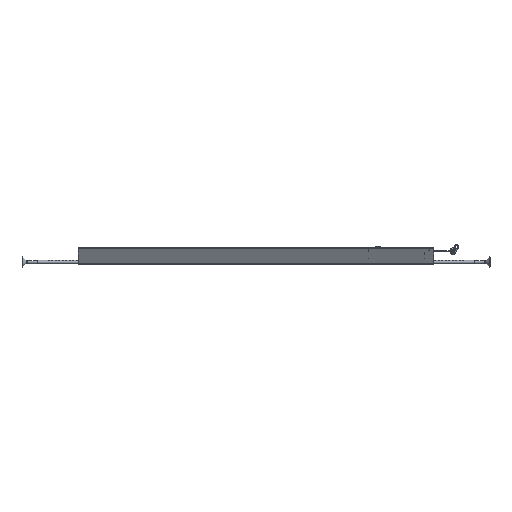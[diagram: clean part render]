
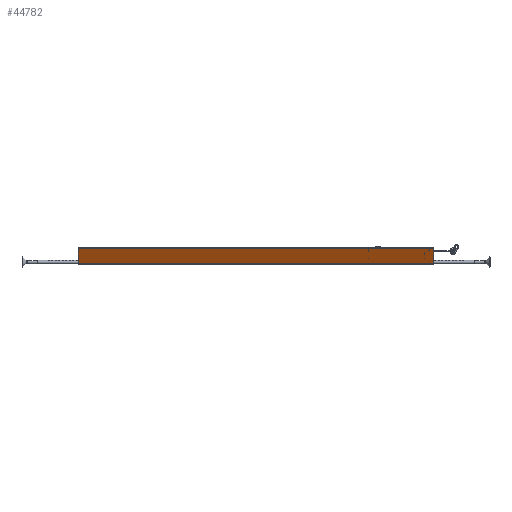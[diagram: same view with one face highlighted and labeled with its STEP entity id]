
A CAD part, left-side view. The second image highlights one B-rep face of the part: STEP entity #44782.
In plain terms, the highlighted planar face has unit normal (-0.862, 0, -0.507).
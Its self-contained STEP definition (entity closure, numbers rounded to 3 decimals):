
#260 = CARTESIAN_POINT ( 'NONE',  ( -11.632, 1015., -6.852 ) ) ;
#315 = VECTOR ( 'NONE', #31514, 1000. ) ;
#1368 = VERTEX_POINT ( 'NONE', #31929 ) ;
#2068 = VERTEX_POINT ( 'NONE', #44855 ) ;
#3197 = LINE ( 'NONE', #17385, #315 ) ;
#4309 = CARTESIAN_POINT ( 'NONE',  ( -63.956, 1015., 81.977 ) ) ;
#4530 = LINE ( 'NONE', #4309, #25526 ) ;
#5333 = EDGE_CURVE ( 'NONE', #1368, #42157, #42779, .T. ) ;
#6523 = CARTESIAN_POINT ( 'NONE',  ( -11.632, 1015., -6.852 ) ) ;
#6597 = ORIENTED_EDGE ( 'NONE', *, *, #19477, .F. ) ;
#7047 = DIRECTION ( 'NONE',  ( -0.508, 0., 0.862 ) ) ;
#7967 = CARTESIAN_POINT ( 'NONE',  ( -11.632, -1015., -6.852 ) ) ;
#16849 = EDGE_CURVE ( 'NONE', #24459, #1368, #3197, .T. ) ;
#17227 = FACE_OUTER_BOUND ( 'NONE', #24079, .T. ) ;
#17385 = CARTESIAN_POINT ( 'NONE',  ( -11.632, 1015., -6.852 ) ) ;
#18950 = DIRECTION ( 'NONE',  ( 0., -1., 0. ) ) ;
#19477 = EDGE_CURVE ( 'NONE', #2068, #42157, #4530, .T. ) ;
#19624 = LINE ( 'NONE', #23548, #36855 ) ;
#23548 = CARTESIAN_POINT ( 'NONE',  ( -11.632, 1015., -6.852 ) ) ;
#24079 = EDGE_LOOP ( 'NONE', ( #35218, #6597, #25887, #38522 ) ) ;
#24459 = VERTEX_POINT ( 'NONE', #260 ) ;
#25526 = VECTOR ( 'NONE', #18950, 1000. ) ;
#25887 = ORIENTED_EDGE ( 'NONE', *, *, #27215, .F. ) ;
#27079 = AXIS2_PLACEMENT_3D ( 'NONE', #6523, #35303, #28092 ) ;
#27215 = EDGE_CURVE ( 'NONE', #24459, #2068, #19624, .T. ) ;
#27880 = PLANE ( 'NONE',  #27079 ) ;
#28092 = DIRECTION ( 'NONE',  ( 0.508, 0., -0.862 ) ) ;
#31514 = DIRECTION ( 'NONE',  ( 0., -1., 0. ) ) ;
#31929 = CARTESIAN_POINT ( 'NONE',  ( -11.632, -1015., -6.852 ) ) ;
#32241 = CARTESIAN_POINT ( 'NONE',  ( -63.956, -1015., 81.977 ) ) ;
#33524 = DIRECTION ( 'NONE',  ( -0.508, 0., 0.862 ) ) ;
#35218 = ORIENTED_EDGE ( 'NONE', *, *, #5333, .T. ) ;
#35303 = DIRECTION ( 'NONE',  ( 0.862, 0., 0.508 ) ) ;
#36855 = VECTOR ( 'NONE', #33524, 1000. ) ;
#38522 = ORIENTED_EDGE ( 'NONE', *, *, #16849, .T. ) ;
#39579 = VECTOR ( 'NONE', #7047, 1000. ) ;
#42157 = VERTEX_POINT ( 'NONE', #32241 ) ;
#42779 = LINE ( 'NONE', #7967, #39579 ) ;
#44782 = ADVANCED_FACE ( 'NONE', ( #17227 ), #27880, .F. ) ;
#44855 = CARTESIAN_POINT ( 'NONE',  ( -63.956, 1015., 81.977 ) ) ;
